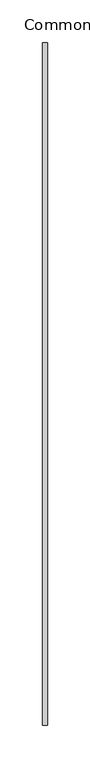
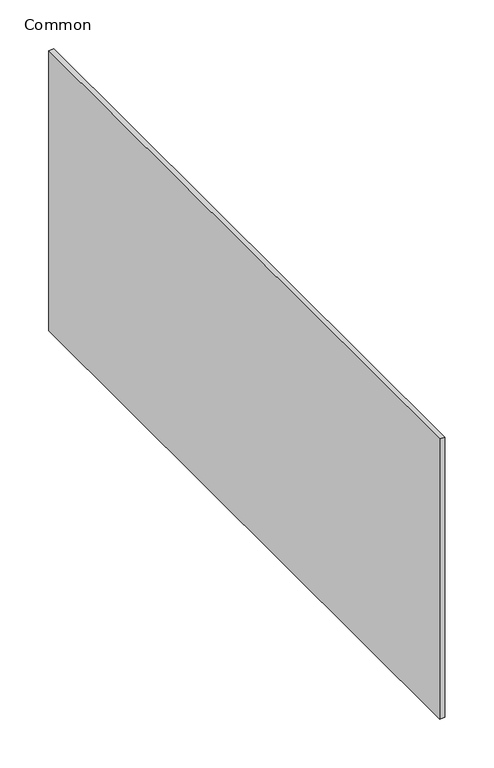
"""IFC4 building model written with IfcOpenShell, lengths in millimetres: duct fitting geometry, 071_角型ユニオン : Common."""

from ifc_helpers import new_model, si_unit, frame, origin, place, context, project, spatial, polyline, outline, extrude, source, transform, mapped, element, save


def common_e3022bb7(model_context):
    return source(origin(), model_context, "Body", "SweptSolid", [
        extrude(outline(polyline([(3.0, 400.0), (3.0, -400.0), (-3.0, -400.0), (-3.0, 400.0), (3.0, 400.0)])), frame((0.0, 0.0, -175.0), z_axis=(0.0, 0.0, 1.0), x_axis=(1.0, 0.0, 0.0)), (0.0, 0.0, 1.0), 350.0),
    ])


if __name__ == "__main__":
    model = new_model("IFC4")
    model_context = context("Model", 3, world=origin())
    ifc_project = project(units=[si_unit("LENGTHUNIT", "METRE", prefix="MILLI")], contexts=[model_context])
    site = spatial("IfcSite", under=ifc_project)
    building = spatial("IfcBuilding", under=site)
    placement = place(None, origin())
    common_shape = common_e3022bb7(model_context)
    element("IfcDuctFitting", 1, ObjectType="071_角型ユニオン : Common", at=placement, inside=building, context=model_context, shape_type="MappedRepresentation", body=[
        mapped(common_shape, transform((0.0, 0.0, 0.0), x_axis=(1.0, 0.0, 0.0), y_axis=(0.0, 1.0, 0.0), z_axis=(0.0, 0.0, 1.0))),
    ])
    save(model, "model.ifc")
